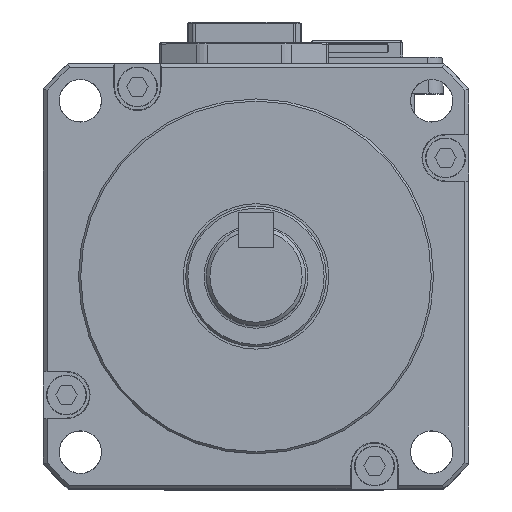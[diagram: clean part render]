
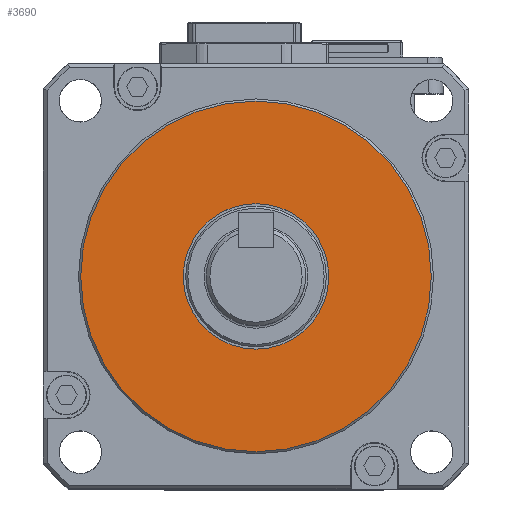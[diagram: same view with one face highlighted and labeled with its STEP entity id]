
A CAD part, top view. The second image highlights one B-rep face of the part: STEP entity #3690.
In plain terms, the highlighted planar face has unit normal (0, 0, 1).
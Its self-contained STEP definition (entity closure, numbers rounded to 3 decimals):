
#3690 = ADVANCED_FACE ( 'NONE', ( #16489, #10420 ), #50415, .T. ) ;
#5629 = ORIENTED_EDGE ( 'NONE', *, *, #27114, .T. ) ;
#7251 = CARTESIAN_POINT ( 'NONE',  ( 0., 0., 10. ) ) ;
#8214 = VERTEX_POINT ( 'NONE', #17764 ) ;
#9291 = CARTESIAN_POINT ( 'NONE',  ( 0., 0., 10. ) ) ;
#10420 = FACE_BOUND ( 'NONE', #26392, .T. ) ;
#16489 = FACE_OUTER_BOUND ( 'NONE', #26167, .T. ) ;
#17764 = CARTESIAN_POINT ( 'NONE',  ( 10.25, 0., 10. ) ) ;
#18265 = CIRCLE ( 'NONE', #42752, 10.25 ) ;
#18494 = DIRECTION ( 'NONE',  ( 1., 0., 0. ) ) ;
#21293 = EDGE_CURVE ( 'NONE', #8214, #8214, #18265, .T. ) ;
#23503 = AXIS2_PLACEMENT_3D ( 'NONE', #7251, #32183, #31553 ) ;
#24952 = DIRECTION ( 'NONE',  ( 1., 0., 0. ) ) ;
#26167 = EDGE_LOOP ( 'NONE', ( #5629 ) ) ;
#26392 = EDGE_LOOP ( 'NONE', ( #30871 ) ) ;
#27114 = EDGE_CURVE ( 'NONE', #61896, #61896, #56096, .T. ) ;
#28543 = AXIS2_PLACEMENT_3D ( 'NONE', #51154, #61675, #18494 ) ;
#30871 = ORIENTED_EDGE ( 'NONE', *, *, #21293, .F. ) ;
#31553 = DIRECTION ( 'NONE',  ( 1., 0., 0. ) ) ;
#32183 = DIRECTION ( 'NONE',  ( 0., 0., 1. ) ) ;
#42752 = AXIS2_PLACEMENT_3D ( 'NONE', #9291, #58549, #24952 ) ;
#50415 = PLANE ( 'NONE',  #23503 ) ;
#51154 = CARTESIAN_POINT ( 'NONE',  ( 0., 0., 10. ) ) ;
#53288 = CARTESIAN_POINT ( 'NONE',  ( 24.7, 0., 10. ) ) ;
#56096 = CIRCLE ( 'NONE', #28543, 24.7 ) ;
#58549 = DIRECTION ( 'NONE',  ( 0., 0., 1. ) ) ;
#61675 = DIRECTION ( 'NONE',  ( 0., 0., 1. ) ) ;
#61896 = VERTEX_POINT ( 'NONE', #53288 ) ;
